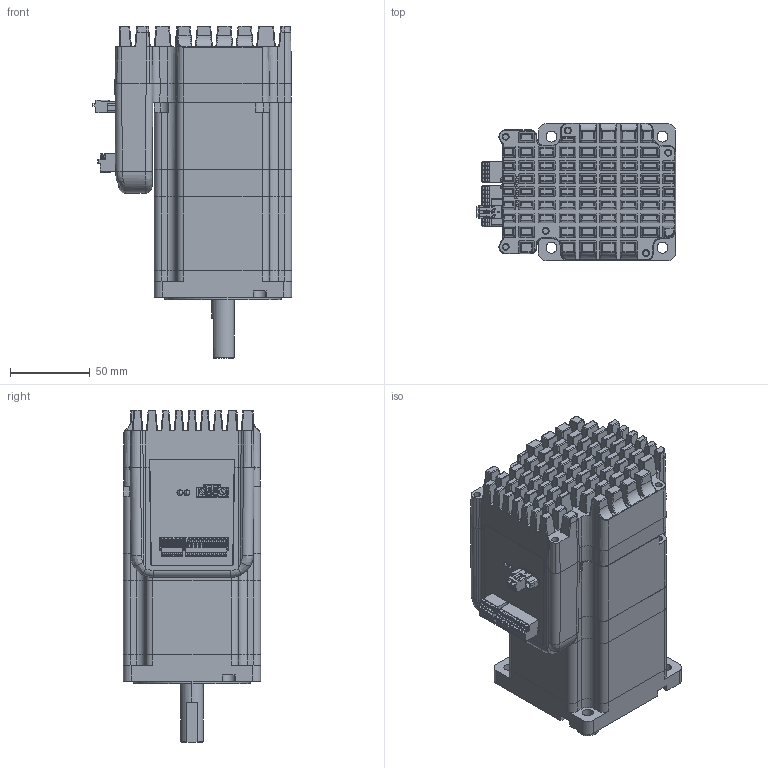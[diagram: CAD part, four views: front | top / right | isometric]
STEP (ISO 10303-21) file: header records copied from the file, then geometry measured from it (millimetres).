
FILE_DESCRIPTION((''),'2;1');
FILE_NAME('IHSS86-60-45-SC_ASM','2023-09-09T11:33:02',('Administrator'),(''),'CREO PARAMETRIC BY PTC INC, 2021404','CREO PARAMETRIC BY PTC INC, 2021404','');
FILE_SCHEMA(('CONFIG_CONTROL_DESIGN'));
Products named in the file (40): __3___IHSS86_120001_1; __2___IHSS86_120001_1; _IHSS86_12000_1; IHSS86_12000_ASM_1_ASM; NONE-11429_1_1; __6____IHSS86_120001_1; __7____IHSS86_120001_1; NONE-2361_1; NONE-15021_1; NONE-32954_1; NONE-55954_1; NONE-84192_1; NONE-98013_1; NONE-111432_1; NONE-115142_1; NONE-122185_1; NONE-122976_1; NONE-145826_1; NONE-153466_1; NONE-164737_1; __4____IHSS86_120001_ASM_1_ASM; 15EDGKDM-3__IHSS860001_1; __2____IHSS86_120001_1; __9____IHSS86_120001_1; 15EDGKD-2__IHSS86_0001_1; __IHSS86_120001_1; __2__15EDGVC-2__IH0001_1; __5____IHSS86_120001_1; __3____IHSS86_120001_1; 15EDGVM-5__IHSS86_0001_1; __8____IHSS86_120001_1; 15EDGVC-2__IHSS86_0001_1; 57JS15EDGKD-2__IHS0001_1; __10____IHSS86_120001_1; _IHSS86_-1212280001_ASM_1_ASM; _IHSS86_-608170001_1; IHSS86_120002_ASM_1_ASM; IHSS86-60-45_1_ASM_1_ASM; IHSS86-60-45_ASM_1_ASM; IHSS86-60-45-SC_ASM
Assembly tree (48 placements, depth 7):
  IHSS86-60-45-SC_ASM
    IHSS86-60-45_ASM_1_ASM
      IHSS86-60-45_1_ASM_1_ASM
        IHSS86_12000_ASM_1_ASM
          __3___IHSS86_120001_1
          __2___IHSS86_120001_1
          _IHSS86_12000_1
        NONE-11429_1_1
        IHSS86_120002_ASM_1_ASM
          _IHSS86_-1212280001_ASM_1_ASM
            __6____IHSS86_120001_1  x8
            __7____IHSS86_120001_1
            __4____IHSS86_120001_ASM_1_ASM  x2
              NONE-2361_1
              NONE-15021_1
              NONE-32954_1
              NONE-55954_1
              NONE-84192_1
              NONE-98013_1
              NONE-111432_1
              NONE-115142_1
              NONE-122185_1
              NONE-122976_1
              NONE-145826_1
              NONE-153466_1
              NONE-164737_1
            15EDGKDM-3__IHSS860001_1
            __2____IHSS86_120001_1
            __9____IHSS86_120001_1
            15EDGKD-2__IHSS86_0001_1
            __IHSS86_120001_1
            __2__15EDGVC-2__IH0001_1
            __5____IHSS86_120001_1
            __3____IHSS86_120001_1  x2
            15EDGVM-5__IHSS86_0001_1
            __8____IHSS86_120001_1
            15EDGVC-2__IHSS86_0001_1
            57JS15EDGKD-2__IHS0001_1
            __10____IHSS86_120001_1
          _IHSS86_-608170001_1
Bounding box: 124.8 x 86 x 208.08 mm (x, y, z)
Volume: 866194 mm3; surface area: 267365.4 mm2
Topology: 41 solids, 183 shells, 7173 faces, 20488 edges, 13390 vertices
Faces by surface type: plane 4669, cylinder 1872, sphere 306, cone 208, bspline 57, extrusion 36, torus 25
Entity records: 178896 total; most frequent: CARTESIAN_POINT 38409, ORIENTED_EDGE 28873, DIRECTION 28589, EDGE_CURVE 14825, VECTOR 10549, LINE 10513, VERTEX_POINT 9531, AXIS2_PLACEMENT_3D 9020
